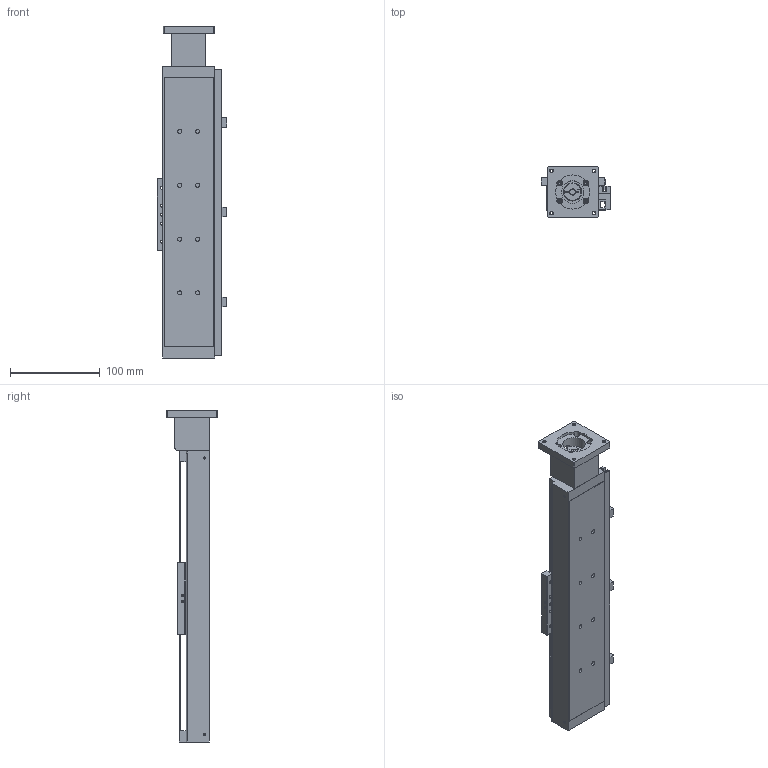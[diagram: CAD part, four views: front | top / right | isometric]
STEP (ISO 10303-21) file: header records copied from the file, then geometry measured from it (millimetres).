
FILE_DESCRIPTION((''),'2;1');
FILE_NAME('E:\uia actuator\UIA actuator 3d- 2009\Standard ball screw actuator\UIA058R7DC\UIA058R7DC3-STEP file\with motor mount\UIA058R7DC step file 2016\UIA058R7DC-200-R0803-M23-P13-C10-S.stp','2016-04-15T16:10:47',('h029'),(''),'Autodesk Inventor 11','Autodesk Inventor 11','');
FILE_SCHEMA(('AUTOMOTIVE_DESIGN { 1 0 10303 214 1 1 1 1 }'));
Length unit declared in the file: millimetre
Products named in the file (10): UIA058R7DC-200-R0803-M23-P13-C10-S; UIA058R7DC-200-BODY; UIA058R7DC-200-SENSOR RAIL; UIA058R7DC-CARRIAGE; UIA058R7DC SENSOR FLAG; 10-100 0110-M23 MotorMOUNT; SOH-20C; SOH-20C-3; SOH-20C-1; SOH-20C-2
Assembly tree (9 placements, depth 3):
  UIA058R7DC-200-R0803-M23-P13-C10-S
    UIA058R7DC-200-BODY
    UIA058R7DC-200-SENSOR RAIL
    UIA058R7DC-CARRIAGE
    UIA058R7DC SENSOR FLAG
    10-100 0110-M23 MotorMOUNT
    SOH-20C
      SOH-20C-3
      SOH-20C-1
      SOH-20C-2
Bounding box: 77.4 x 57 x 370 mm (x, y, z)
Volume: 359663.2 mm3; surface area: 176767.6 mm2
Topology: 11 solids, 11 shells, 332 faces, 907 edges, 598 vertices
Faces by surface type: plane 188, cylinder 92, cone 44, bspline 8
Full cylindrical faces by diameter (mm): 2.013 x4, 2.459 x8, 3 x8, 3.242 x12, 3.5 x6, 4 x2, 4.5 x8, 6 x4, 6.35 x1, 7.5 x8, 16 x2, 20 x3, 25 x1
Entity records: 10420 total; most frequent: CARTESIAN_POINT 2159, DIRECTION 1657, ORIENTED_EDGE 1522, EDGE_CURVE 761, AXIS2_PLACEMENT_3D 585, VERTEX_POINT 555, EDGE_LOOP 531, VECTOR 487
